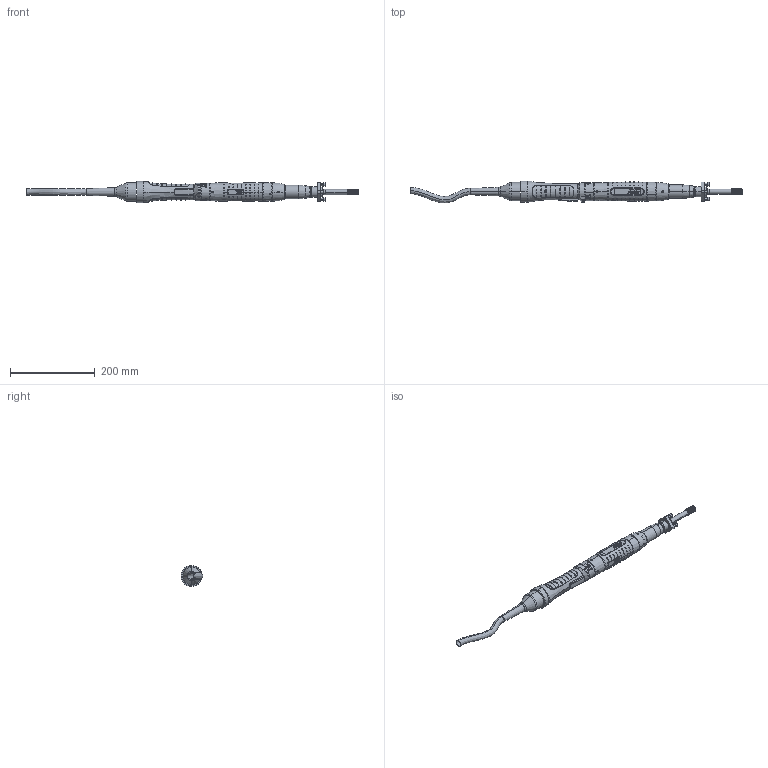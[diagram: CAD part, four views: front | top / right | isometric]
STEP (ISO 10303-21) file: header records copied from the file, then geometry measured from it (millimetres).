
FILE_DESCRIPTION (( 'STEP AP214' ), '1' );
FILE_NAME ('7900190_HCX1040ZF50.STEP', '2007-10-23T16:13:10', ( 'PC262' ), ( 'Alfing Montagetechnik GmbH' ), 'SwSTEP 2.0', 'SolidWorks 2007', '' );
FILE_SCHEMA (( 'AUTOMOTIVE_DESIGN' ));
Length unit declared in the file: millimetre
Products named in the file (1): 7900190_HCX1040ZF50
Bounding box: 783.18 x 51.57 x 49.8 mm (x, y, z)
Surface area: 100164.9 mm2 (no closed solid volume)
Topology: 0 solids, 43 shells, 1077 faces, 3752 edges, 2589 vertices
Faces by surface type: plane 295, cylinder 269, torus 249, bspline 196, cone 62, sphere 6
Entity records: 67103 total; most frequent: CARTESIAN_POINT 26238, ORIENTED_EDGE 5972, DIRECTION 5692, EDGE_CURVE 3729, VERTEX_POINT 2581, AXIS2_PLACEMENT_3D 2300, CIRCLE 1420, EDGE_LOOP 1188
